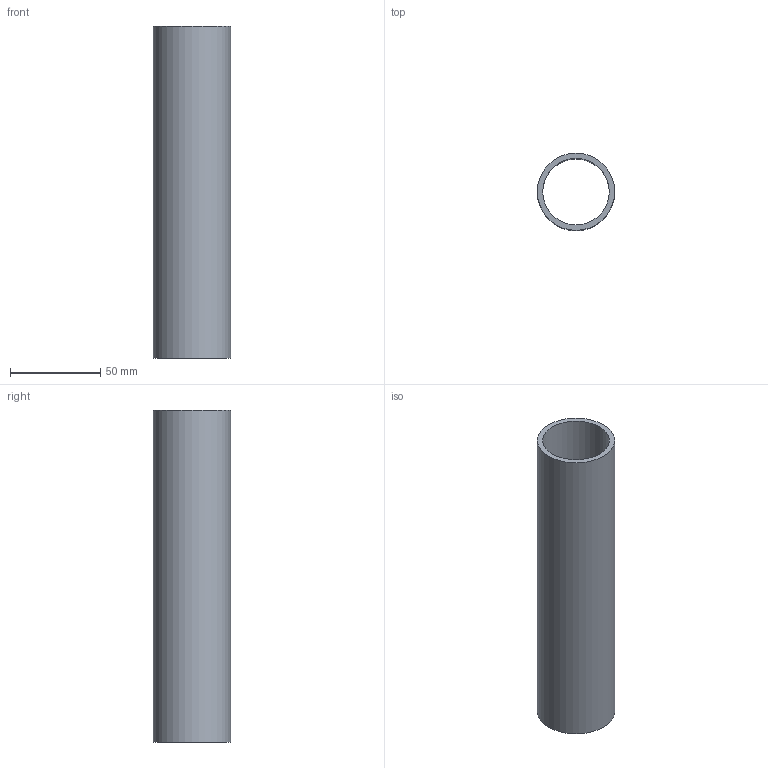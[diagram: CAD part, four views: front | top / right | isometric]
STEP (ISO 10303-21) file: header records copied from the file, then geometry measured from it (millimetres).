
FILE_DESCRIPTION(('Open CASCADE Model'),'2;1');
FILE_NAME('Open CASCADE Shape Model','2026-10-21T10:33:18',('Author'),( 'Open CASCADE'),'Open CASCADE STEP processor 7.9','Open CASCADE 7.9' ,'Unknown');
FILE_SCHEMA(('AUTOMOTIVE_DESIGN { 1 0 10303 214 1 1 1 1 }'));
Length unit declared in the file: millimetre
Products named in the file (1): Open CASCADE STEP translator 7.9 10
Bounding box: 42.8 x 42.8 x 183.8 mm (x, y, z)
Volume: 68944.5 mm3; surface area: 46713.2 mm2
Topology: 1 solids, 1 shells, 4 faces, 6 edges, 4 vertices
Faces by surface type: cylinder 2, plane 2
Full cylindrical faces by diameter (mm): 36.8 x1, 42.8 x1
Entity records: 186 total; most frequent: DIRECTION 32, CARTESIAN_POINT 27, ORIENTED_EDGE 12, PCURVE 12, DEFINITIONAL_REPRESENTATION 12, LINE 10, VECTOR 10, AXIS2_PLACEMENT_3D 9
